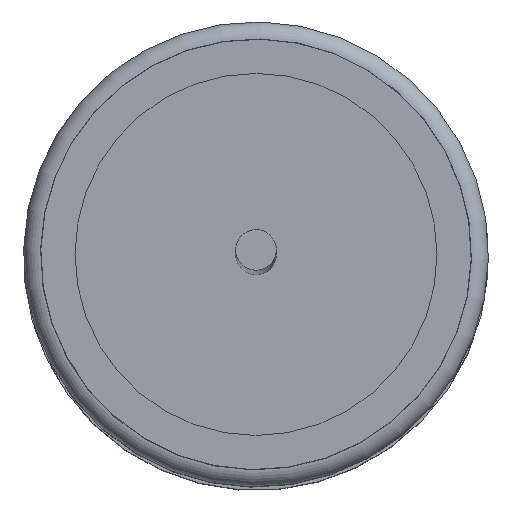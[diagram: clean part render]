
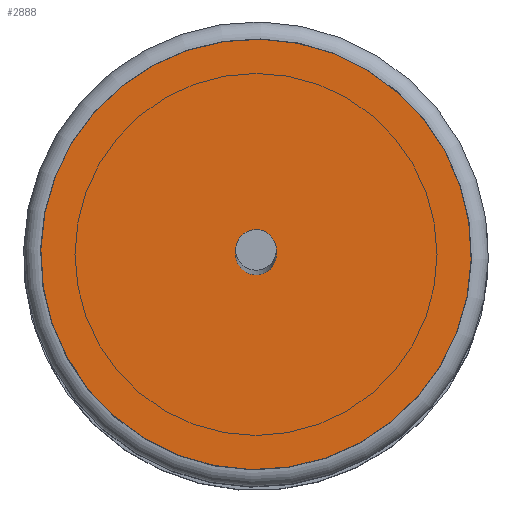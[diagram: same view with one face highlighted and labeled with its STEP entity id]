
A CAD part, top view. The second image highlights one B-rep face of the part: STEP entity #2888.
In plain terms, the highlighted planar face has unit normal (0, 0, 1) as drawn and (0, -1, 0) by its records, which use the part's own axes.
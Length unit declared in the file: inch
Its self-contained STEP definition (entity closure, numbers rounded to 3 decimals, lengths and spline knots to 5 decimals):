
#39=FACE_BOUND('',#494,.T.);
#172=PLANE('',#3143);
#329=FACE_OUTER_BOUND('',#493,.T.);
#493=EDGE_LOOP('',(#2687,#2688));
#494=EDGE_LOOP('',(#2689));
#728=CIRCLE('',#3133,0.01181);
#729=CIRCLE('',#3136,0.12484);
#733=CIRCLE('',#3140,0.12484);
#1399=VERTEX_POINT('',#6510);
#1400=VERTEX_POINT('',#6515);
#1401=VERTEX_POINT('',#6516);
#1826=EDGE_CURVE('',#1399,#1399,#728,.T.);
#1827=EDGE_CURVE('',#1400,#1401,#729,.T.);
#1831=EDGE_CURVE('',#1401,#1400,#733,.T.);
#2687=ORIENTED_EDGE('',*,*,#1827,.F.);
#2688=ORIENTED_EDGE('',*,*,#1831,.F.);
#2689=ORIENTED_EDGE('',*,*,#1826,.T.);
#2888=ADVANCED_FACE('',(#329,#39),#172,.F.);
#3133=AXIS2_PLACEMENT_3D('',#6512,#3692,#3693);
#3136=AXIS2_PLACEMENT_3D('',#6517,#3698,#3699);
#3140=AXIS2_PLACEMENT_3D('',#6523,#3706,#3707);
#3143=AXIS2_PLACEMENT_3D('',#6528,#3713,#3714);
#3692=DIRECTION('center_axis',(0.,1.,0.));
#3693=DIRECTION('ref_axis',(-1.,0.,0.));
#3698=DIRECTION('center_axis',(0.,1.,0.));
#3699=DIRECTION('ref_axis',(1.,0.,0.));
#3706=DIRECTION('center_axis',(0.,1.,0.));
#3707=DIRECTION('ref_axis',(1.,0.,0.));
#3713=DIRECTION('center_axis',(0.,1.,0.));
#3714=DIRECTION('ref_axis',(0.,0.,1.));
#6510=CARTESIAN_POINT('',(0.01181,0.,0.));
#6512=CARTESIAN_POINT('Origin',(0.,0.,0.));
#6515=CARTESIAN_POINT('',(-0.12484,0.,0.));
#6516=CARTESIAN_POINT('',(0.,0.,0.12484));
#6517=CARTESIAN_POINT('Origin',(0.,0.,0.));
#6523=CARTESIAN_POINT('Origin',(0.,0.,0.));
#6528=CARTESIAN_POINT('Origin',(0.,0.,0.));
